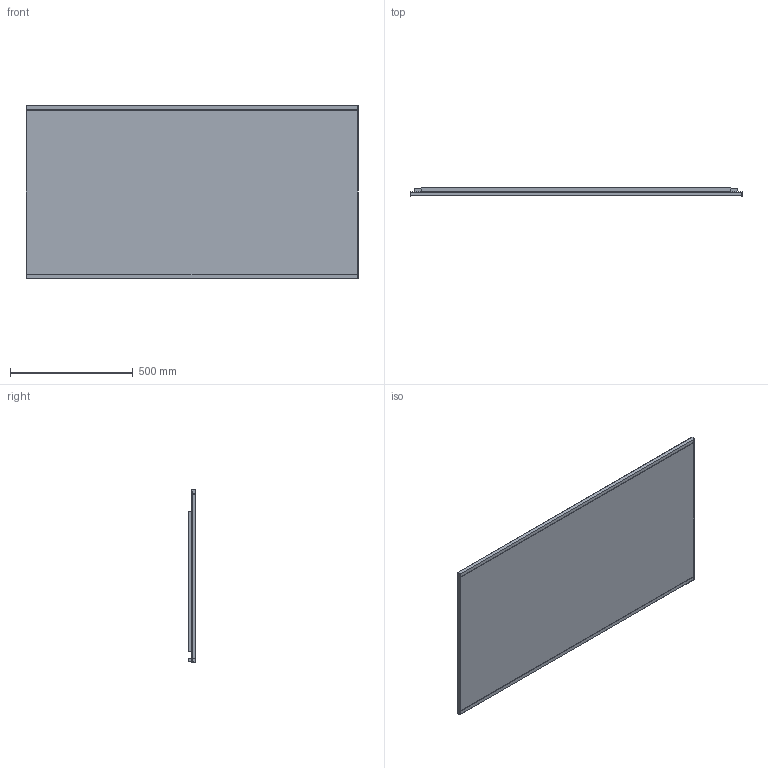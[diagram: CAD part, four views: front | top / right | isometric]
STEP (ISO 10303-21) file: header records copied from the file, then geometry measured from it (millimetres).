
FILE_DESCRIPTION(/* description */ (''),/* implementation_level */ '2;1');
FILE_NAME(/* name */ 'C:\Planerdaten\Export PLA\502.786.00.1\stp\502786.stp',/* time_stamp */ '2022-12-02T15:05:51+01:00',/* author */ ('JANAN'),/* organization */ (''),/* preprocessor_version */ 'ST-DEVELOPER v18.1',/* originating_system */ 'Autodesk Inventor 2021',/* authorisation */ '');
FILE_SCHEMA (('AUTOMOTIVE_DESIGN { 1 0 10303 214 3 1 1 }'));
Length unit declared in the file: millimetre
Products named in the file (1): tmpAC38.tmp
Bounding box: 1350 x 32 x 700 mm (x, y, z)
Volume: 25670438 mm3; surface area: 4124481 mm2
Topology: 4 solids, 4 shells, 63 faces, 154 edges, 104 vertices
Faces by surface type: plane 59, cylinder 4
Full cylindrical faces by diameter (mm): 8 x4
Entity records: 1959 total; most frequent: CARTESIAN_POINT 322, ORIENTED_EDGE 308, DIRECTION 298, EDGE_CURVE 154, LINE 138, VECTOR 138, VERTEX_POINT 104, AXIS2_PLACEMENT_3D 80
